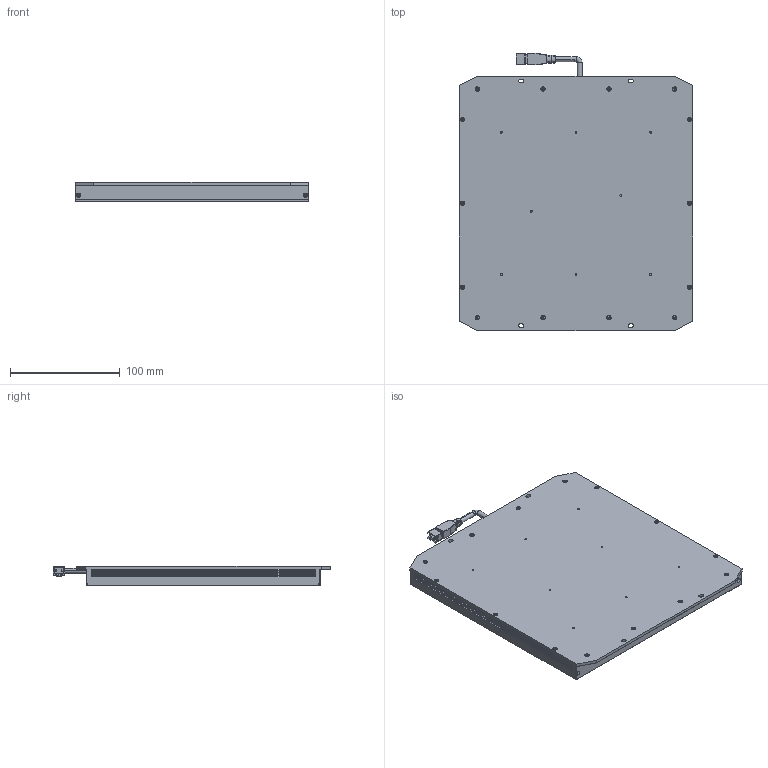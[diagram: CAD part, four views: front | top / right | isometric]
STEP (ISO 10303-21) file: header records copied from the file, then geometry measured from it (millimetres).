
FILE_DESCRIPTION((''),'2;1');
FILE_NAME('PRT0004','2022-11-04T18:13:31',('lizhoupeng'),(''),'CREO PARAMETRIC BY PTC INC, 2020044','CREO PARAMETRIC BY PTC INC, 2020044','');
FILE_SCHEMA(('CONFIG_CONTROL_DESIGN'));
Length unit declared in the file: millimetre
Products named in the file (1): PRT0004
Bounding box: 213 x 252.75 x 18 mm (x, y, z)
Volume: 827549.5 mm3; surface area: 122918.4 mm2
Topology: 1 solids, 74 shells, 2047 faces, 4751 edges, 2829 vertices
Faces by surface type: plane 1183, cylinder 550, cone 220, torus 78, sphere 8, bspline 8
Entity records: 57684 total; most frequent: CARTESIAN_POINT 11407, DIRECTION 9734, ORIENTED_EDGE 9350, EDGE_CURVE 4675, AXIS2_PLACEMENT_3D 3354, VECTOR 3026, LINE 3026, VERTEX_POINT 2829
